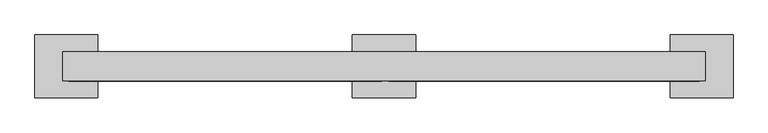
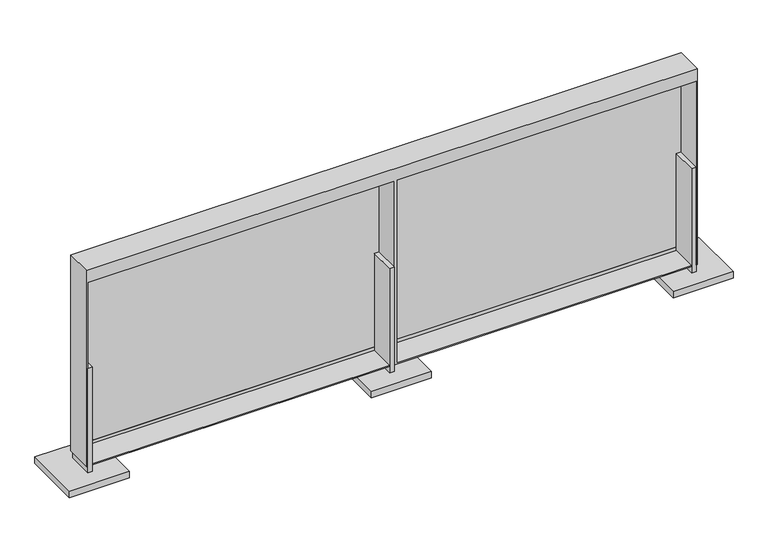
"""IFC4 building model written with IfcOpenShell, lengths in millimetres: proxy geometry, VIVA-Railings_Special-Equipment_Brow-Sun-Control-System : 2’ 0” x 6’ 0” - Aluminum 1/8''."""

from ifc_helpers import new_model, si_unit, frame, origin, origin_with_axes, place, context, project, spatial, polyline, outline, extrude, faceted_brep, source, transform, mapped, element, save


def specialty_equipment_177a956b(model_context):
    return source(origin(), model_context, "Body", "SolidModel", [
        extrude(outline(polyline([(-812.8, 34.925), (-812.8, -38.1), (-825.5, -38.1), (-825.5, 34.925), (-812.8, 34.925)])), frame((0.0, 0.0, 19.05), z_axis=(0.0, 0.0, 1.0), x_axis=(1.0, 0.0, 0.0)), (0.0, 0.0, 1.0), 304.8),
        extrude(outline(polyline([(838.2, 34.925), (850.9, 34.925), (850.9, -38.1), (838.2, -38.1), (838.2, 34.925)])), frame((0.0, 0.0, 19.05), z_axis=(0.0, 0.0, 1.0), x_axis=(1.0, 0.0, 0.0)), (0.0, 0.0, 1.0), 304.8),
        extrude(outline(polyline([(6.35, 34.925), (19.05, 34.925), (19.05, -38.1), (6.35, -38.1), (6.35, 34.925)])), frame((0.0, 0.0, 19.05), z_axis=(0.0, 0.0, 1.0), x_axis=(1.0, 0.0, 0.0)), (0.0, 0.0, 1.0), 304.8),
        faceted_brep([(-828.675, 38.1, 38.1), (-828.675, 38.1, 609.6), (854.075, 38.1, 609.6), (854.075, 38.1, 38.1), (850.9, 38.1, 50.8), (850.9, 38.1, 574.675), (25.4, 38.1, 574.675), (25.4, 38.1, 50.8), (19.05, 38.1, 50.8), (19.05, 38.1, 574.675), (-825.5, 38.1, 574.675), (-825.5, 38.1, 50.8), (-828.675, -38.1, 609.6), (854.075, -38.1, 609.6), (-828.675, -38.1, 38.1), (-825.5, -38.1, 38.1), (-825.5, -38.1, 574.675), (19.05, -38.1, 574.675), (19.05, -38.1, 38.1), (838.2, -38.1, 38.1), (838.2, -38.1, 41.275), (25.4, -38.1, 41.275), (25.4, -38.1, 574.675), (850.9, -38.1, 574.675), (850.9, -38.1, 38.1), (854.075, -38.1, 38.1), (6.35, -38.1, 41.275), (-812.8, -38.1, 41.275), (-812.8, -38.1, 38.1), (6.35, -38.1, 38.1), (-825.5, -22.225, 574.675), (19.05, -22.225, 574.675), (25.4, -22.225, 574.675), (850.9, -22.225, 574.675), (25.4, -22.225, 577.85), (850.9, -22.225, 577.85), (-825.5, -22.225, 577.85), (19.05, -22.225, 577.85), (25.4, -34.925, 577.85), (850.9, -34.925, 577.85), (-825.5, -34.925, 577.85), (19.05, -34.925, 577.85), (25.4, -34.925, 606.425), (850.9, -34.925, 606.425), (-825.5, -34.925, 606.425), (19.05, -34.925, 606.425), (25.4, 34.925, 606.425), (850.9, 34.925, 606.425), (-825.5, 34.925, 606.425), (19.05, 34.925, 606.425), (25.4, 34.925, 574.675), (850.9, 34.925, 574.675), (-825.5, 34.925, 574.675), (19.05, 34.925, 574.675), (6.35, 34.925, 41.275), (-812.8, 34.925, 41.275), (838.2, 34.925, 41.275), (25.4, 34.925, 41.275), (-812.8, 34.925, 38.1), (-825.5, 34.925, 38.1), (850.9, 34.925, 38.1), (838.2, 34.925, 38.1), (19.05, 34.925, 38.1), (6.35, 34.925, 38.1), (25.4, 34.925, 50.8), (850.9, 34.925, 50.8), (-825.5, 34.925, 50.8), (19.05, 34.925, 50.8)], [[[0, 1, 2, 3], [4, 5, 6, 7], [8, 9, 10, 11]], [[2, 1, 12, 13]], [[13, 12, 14, 15, 16, 17, 18, 19, 20, 21, 22, 23, 24, 25]], [[26, 27, 28, 29]], [[17, 16, 30, 31]], [[23, 22, 32, 33]], [[33, 32, 34, 35]], [[31, 30, 36, 37]], [[35, 34, 38, 39]], [[37, 36, 40, 41]], [[39, 38, 42, 43]], [[41, 40, 44, 45]], [[43, 42, 46, 47]], [[45, 44, 48, 49]], [[47, 46, 50, 51]], [[49, 48, 52, 53]], [[54, 55, 27, 26]], [[20, 56, 57, 21]], [[29, 28, 58, 59, 15, 14, 0, 3, 25, 24, 60, 61, 19, 18, 62, 63]], [[4, 7, 64, 65]], [[8, 11, 66, 67]], [[55, 54, 63, 62, 67, 66, 59, 58]], [[56, 61, 60, 65, 64, 57]], [[51, 50, 6, 5]], [[53, 52, 10, 9]], [[12, 1, 0, 14]], [[16, 15, 59, 66, 11, 10, 52, 48, 44, 40, 36, 30]], [[60, 24, 23, 33, 35, 39, 43, 47, 51, 5, 4, 65]], [[2, 13, 25, 3]], [[55, 58, 28, 27]], [[61, 56, 20, 19]], [[63, 54, 26, 29]], [[62, 18, 17, 31, 37, 41, 45, 49, 53, 9, 8, 67]], [[22, 21, 57, 64, 7, 6, 50, 46, 42, 38, 34, 32]]]),
        extrude(outline(polyline([(19.05, 34.925), (-825.5, 34.925), (-825.5, 38.1), (19.05, 38.1), (19.05, 34.925)])), frame((0.0, 0.0, 50.8), z_axis=(0.0, 0.0, 1.0), x_axis=(1.0, 0.0, 0.0)), (0.0, 0.0, 1.0), 523.875),
        extrude(outline(polyline([(850.9, 34.925), (25.4, 34.925), (25.4, 38.1), (850.9, 38.1), (850.9, 34.925)])), frame((0.0, 0.0, 50.8), z_axis=(0.0, 0.0, 1.0), x_axis=(1.0, 0.0, 0.0)), (0.0, 0.0, 1.0), 523.875),
        extrude(outline(polyline([(95.25, 82.55), (95.25, -82.55), (-69.85, -82.55), (-69.85, 82.55), (95.25, 82.55)])), origin_with_axes(), (0.0, 0.0, 1.0), 19.05),
        extrude(outline(polyline([(-736.6, 82.55), (-736.6, -82.55), (-901.7, -82.55), (-901.7, 82.55), (-736.6, 82.55)])), origin_with_axes(), (0.0, 0.0, 1.0), 19.05),
        extrude(outline(polyline([(762.0, 82.55), (927.1, 82.55), (927.1, -82.55), (762.0, -82.55), (762.0, 82.55)])), origin_with_axes(), (0.0, 0.0, 1.0), 19.05),
    ])


if __name__ == "__main__":
    model = new_model("IFC4")
    model_context = context("Model", 3, world=origin())
    ifc_project = project(units=[si_unit("LENGTHUNIT", "METRE", prefix="MILLI")], contexts=[model_context])
    site = spatial("IfcSite", under=ifc_project)
    building = spatial("IfcBuilding", under=site)
    placement = place(None, origin())
    specialty_equipment_shape = specialty_equipment_177a956b(model_context)
    element("IfcBuildingElementProxy", 1, Name="VIVA-Railings_Special-Equipment_Brow-Sun-Control-System : 2’ 0” x 6’ 0” - Aluminum 1/8''", ObjectType="VIVA-Railings_Special-Equipment_Brow-Sun-Control-System : 2’ 0” x 6’ 0” - Aluminum 1/8''", at=placement, inside=building, context=model_context, shape_type="MappedRepresentation", body=[
        mapped(specialty_equipment_shape, transform((0.0, 0.0, 0.0), x_axis=(1.0, 0.0, 0.0), y_axis=(0.0, 1.0, 0.0), z_axis=(0.0, 0.0, 1.0))),
    ])
    save(model, "model.ifc")
